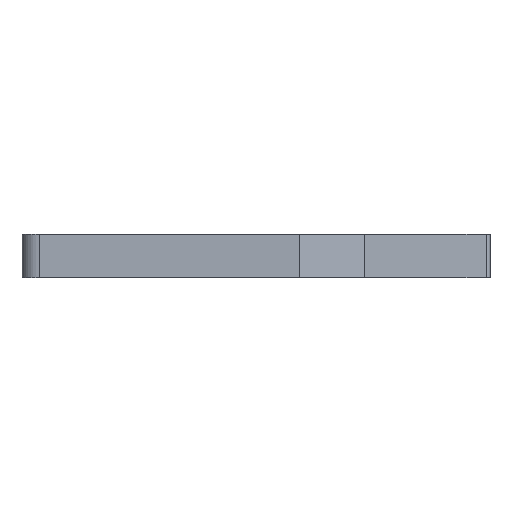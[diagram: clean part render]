
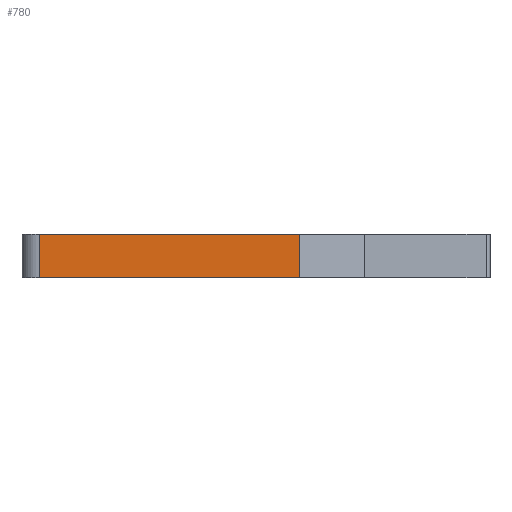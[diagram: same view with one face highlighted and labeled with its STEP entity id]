
A CAD part, left-side view. The second image highlights one B-rep face of the part: STEP entity #780.
In plain terms, the highlighted planar face has unit normal (-1, 0, 0).
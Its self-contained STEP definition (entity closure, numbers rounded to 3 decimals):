
#26=PLANE('',#847);
#58=FACE_OUTER_BOUND('',#98,.T.);
#98=EDGE_LOOP('',(#563,#564,#565,#566));
#154=LINE('',#1157,#248);
#155=LINE('',#1160,#249);
#156=LINE('',#1162,#250);
#157=LINE('',#1163,#251);
#248=VECTOR('',#937,10.);
#249=VECTOR('',#940,10.);
#250=VECTOR('',#941,10.);
#251=VECTOR('',#942,10.);
#357=VERTEX_POINT('',#1150);
#360=VERTEX_POINT('',#1155);
#361=VERTEX_POINT('',#1159);
#362=VERTEX_POINT('',#1161);
#442=EDGE_CURVE('',#357,#360,#154,.T.);
#443=EDGE_CURVE('',#361,#357,#155,.T.);
#444=EDGE_CURVE('',#362,#360,#156,.T.);
#445=EDGE_CURVE('',#361,#362,#157,.T.);
#563=ORIENTED_EDGE('',*,*,#443,.T.);
#564=ORIENTED_EDGE('',*,*,#442,.T.);
#565=ORIENTED_EDGE('',*,*,#444,.F.);
#566=ORIENTED_EDGE('',*,*,#445,.F.);
#780=ADVANCED_FACE('',(#58),#26,.T.);
#847=AXIS2_PLACEMENT_3D('',#1158,#938,#939);
#937=DIRECTION('',(0.,0.,1.));
#938=DIRECTION('center_axis',(-1.,0.,0.));
#939=DIRECTION('ref_axis',(0.,-1.,0.));
#940=DIRECTION('',(0.,-1.,0.));
#941=DIRECTION('',(0.,-1.,0.));
#942=DIRECTION('',(0.,0.,1.));
#1150=CARTESIAN_POINT('',(-25.,6.375,0.));
#1155=CARTESIAN_POINT('',(-25.,6.375,5.));
#1157=CARTESIAN_POINT('',(-25.,6.375,0.));
#1158=CARTESIAN_POINT('Origin',(-25.,36.375,0.));
#1159=CARTESIAN_POINT('',(-25.,36.375,0.));
#1160=CARTESIAN_POINT('',(-25.,36.375,0.));
#1161=CARTESIAN_POINT('',(-25.,36.375,5.));
#1162=CARTESIAN_POINT('',(-25.,36.375,5.));
#1163=CARTESIAN_POINT('',(-25.,36.375,0.));
